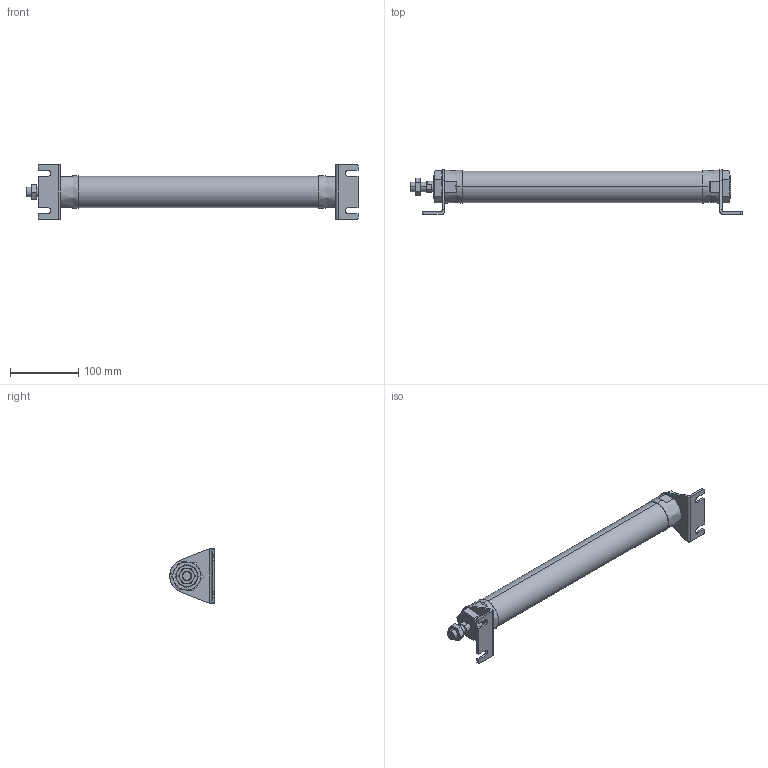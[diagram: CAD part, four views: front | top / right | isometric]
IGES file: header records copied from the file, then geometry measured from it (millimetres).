
Start section: SolidWorks IGES file using analytic representation for surfaces
Global section: file name: C:\Users\Toshiba\Desktop\J#2-40-300-L.IGS; native system: SolidWorks 2014; preprocessor: SolidWorks 2014; author: Toshiba; date: 160310.090906; units: millimetre
Bounding box: 485.2 x 65 x 80 mm (x, y, z)
Surface area: 99940.4 mm2 (no closed solid volume)
Topology: 0 solids, 0 shells, 170 faces, 3118 edges, 3114 vertices
Faces by surface type: bspline 107, revolution 63
